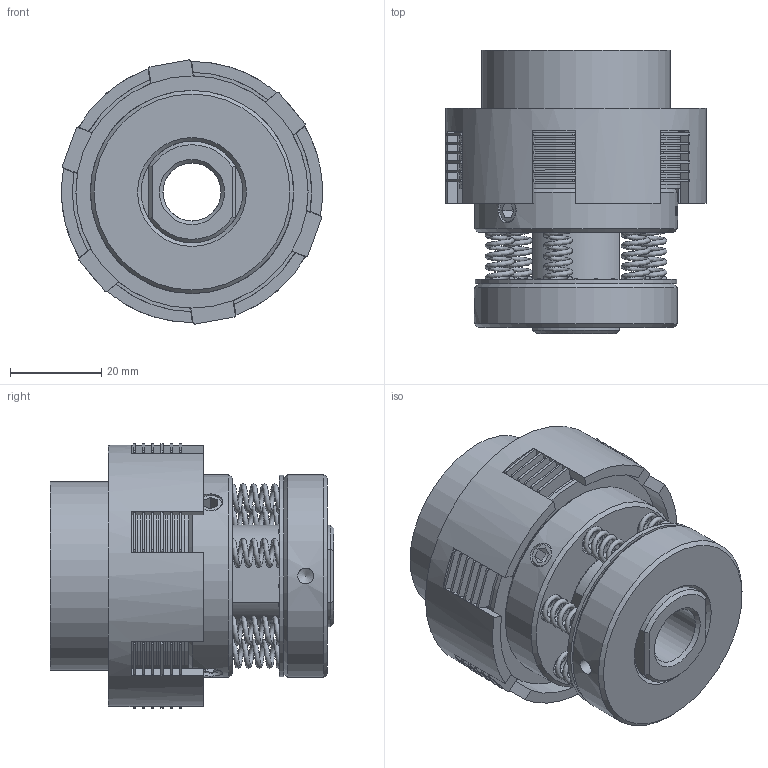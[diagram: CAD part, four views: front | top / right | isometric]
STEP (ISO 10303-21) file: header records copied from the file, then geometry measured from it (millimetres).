
FILE_DESCRIPTION((''),'2;1');
FILE_NAME('P:\Public\3-D CLUTCH ASSEMBLY FILES\EAO44\EAO44.stp','2013-01-21T14:49:23',('TodLob'),(''),'Autodesk Inventor 2011','Autodesk Inventor 2011','');
FILE_SCHEMA(('AUTOMOTIVE_DESIGN { 1 0 10303 214 1 1 1 1 }'));
Length unit declared in the file: inch
Products named in the file (14): EAO44; S3211-8; S4417-A; S4438; S4421; E4413; S4415; S4419; E4409O-10; S4414A; S4440; S4439; Hexagon Socket Set Screw - Flat Point - Inch 1/4-28 UNF x 0.5; 8-10-10
Assembly tree (40 placements, depth 2):
  EAO44
    S3211-8
    S4417-A
    S4438
    S4421  x12
    E4413  x6
    S4415  x6
    S4419
    E4409O-10
    S4414A  x6
    S4440
    S4439
    Hexagon Socket Set Screw - Flat Point - Inch 1/4-28 UNF x 0.5  x2
    8-10-10
Bounding box: 57.15 x 62.08 x 57.79 mm (x, y, z)
Volume: 82541.9 mm3; surface area: 124957.3 mm2
Topology: 40 solids, 40 shells, 1125 faces, 2722 edges, 1796 vertices
Faces by surface type: plane 627, cylinder 314, bspline 160, cone 22, torus 2
Full cylindrical faces by diameter (mm): 1.191 x36, 3.454 x1, 5.41 x2, 6.35 x2, 6.528 x6, 12.7 x2, 15.875 x2, 19.075 x1, 22.225 x1, 22.276 x1, 22.352 x12, 24.206 x6, 41.275 x1, 44.196 x1, 44.45 x3, 50.8 x19, 52.375 x1, 57.15 x1
Entity records: 49519 total; most frequent: CARTESIAN_POINT 32419, ORIENTED_EDGE 3314, DIRECTION 3145, EDGE_CURVE 1657, VERTEX_POINT 1176, AXIS2_PLACEMENT_3D 1122, EDGE_LOOP 1059, VECTOR 901
